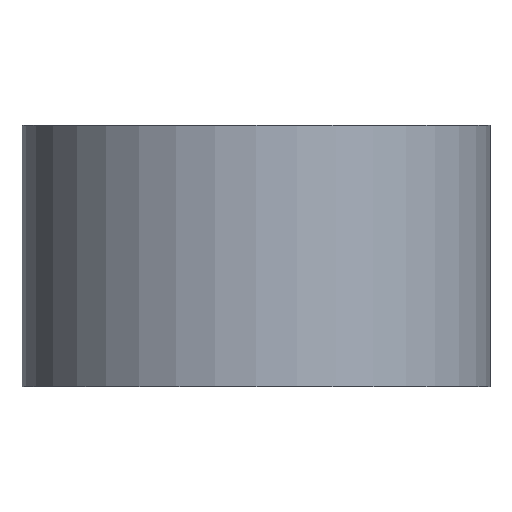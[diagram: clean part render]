
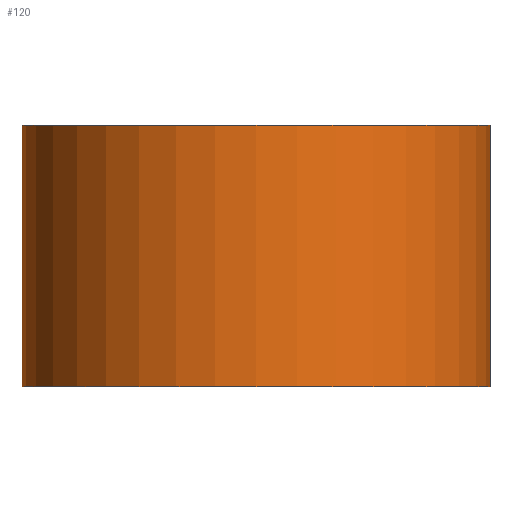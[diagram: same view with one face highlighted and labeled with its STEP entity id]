
A CAD part, front view. The second image highlights one B-rep face of the part: STEP entity #120.
In plain terms, the highlighted cylindrical face has radius 130 mm (diameter 260 mm), a partial arc.
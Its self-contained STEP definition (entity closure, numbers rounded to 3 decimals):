
#64=CARTESIAN_POINT('Axis2P3D Location',(0.,0.,72.5)) ;
#69=CARTESIAN_POINT('Line Origine',(130.,0.,72.5)) ;
#73=CARTESIAN_POINT('Vertex',(130.,0.,0.)) ;
#75=CARTESIAN_POINT('Vertex',(130.,0.,145.)) ;
#82=CARTESIAN_POINT('Vertex',(-130.,0.,0.)) ;
#85=CARTESIAN_POINT('Line Origine',(-130.,0.,72.5)) ;
#89=CARTESIAN_POINT('Vertex',(-130.,0.,145.)) ;
#104=CARTESIAN_POINT('Axis2P3D Location',(0.,0.,0.)) ;
#109=CARTESIAN_POINT('Axis2P3D Location',(0.,0.,145.)) ;
#65=DIRECTION('Axis2P3D Direction',(0.,0.,1.)) ;
#66=DIRECTION('Axis2P3D XDirection',(1.,0.,0.)) ;
#70=DIRECTION('Vector Direction',(0.,0.,1.)) ;
#86=DIRECTION('Vector Direction',(0.,0.,1.)) ;
#105=DIRECTION('Axis2P3D Direction',(0.,0.,1.)) ;
#110=DIRECTION('Axis2P3D Direction',(0.,0.,1.)) ;
#67=AXIS2_PLACEMENT_3D('Cylinder Axis2P3D',#64,#65,#66) ;
#106=AXIS2_PLACEMENT_3D('Circle Axis2P3D',#104,#105,$) ;
#111=AXIS2_PLACEMENT_3D('Circle Axis2P3D',#109,#110,$) ;
#115=ORIENTED_EDGE('',*,*,#91,.F.) ;
#116=ORIENTED_EDGE('',*,*,#108,.T.) ;
#117=ORIENTED_EDGE('',*,*,#77,.T.) ;
#118=ORIENTED_EDGE('',*,*,#113,.F.) ;
#71=VECTOR('Line Direction',#70,1.) ;
#87=VECTOR('Line Direction',#86,1.) ;
#120=ADVANCED_FACE('PartBody',(#119),#68,.T.) ;
#107=CIRCLE('generated circle',#106,130.) ;
#112=CIRCLE('generated circle',#111,130.) ;
#68=CYLINDRICAL_SURFACE('generated cylinder',#67,130.) ;
#77=EDGE_CURVE('',#74,#76,#72,.T.) ;
#91=EDGE_CURVE('',#83,#90,#88,.T.) ;
#108=EDGE_CURVE('',#83,#74,#107,.T.) ;
#113=EDGE_CURVE('',#90,#76,#112,.T.) ;
#114=EDGE_LOOP('',(#115,#116,#117,#118)) ;
#119=FACE_OUTER_BOUND('',#114,.T.) ;
#72=LINE('Line',#69,#71) ;
#88=LINE('Line',#85,#87) ;
#74=VERTEX_POINT('',#73) ;
#76=VERTEX_POINT('',#75) ;
#83=VERTEX_POINT('',#82) ;
#90=VERTEX_POINT('',#89) ;
